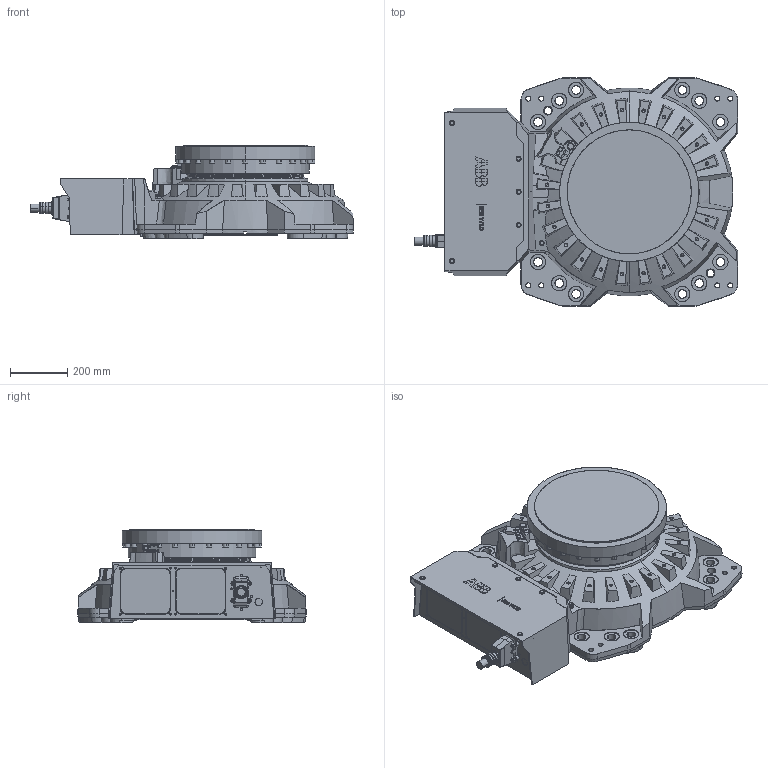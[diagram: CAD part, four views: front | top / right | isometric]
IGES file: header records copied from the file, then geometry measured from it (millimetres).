
Start section: SolidWorks IGES file using analytic representation for surfaces
Global section: file name: C:\Users\SEJAOLS6\OneDrive - ABB\Documents\SAP\7710\7710_Lightweight_models\IRB7710-LID-MH_280kg-350_OC_01_SW_J\IRB7710-LID-MH_280kg-350_OC_01_IGES_J\IRB7710_All_OC_00_BASE_CAD.igs; native system: SolidWorks 2024; preprocessor: SolidWorks 2024; author: SEJAOLS6; date: 260126.155959; units: millimetre
Bounding box: 1124.5 x 795 x 327 mm (x, y, z)
Surface area: 2943672.5 mm2 (no closed solid volume)
Topology: 0 solids, 0 shells, 1365 faces, 19897 edges, 19853 vertices
Faces by surface type: bspline 720, revolution 645
